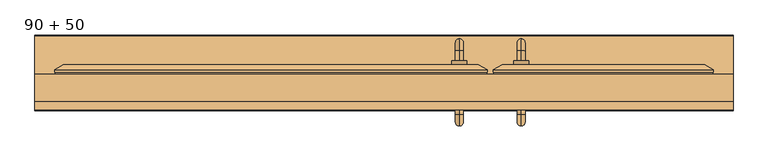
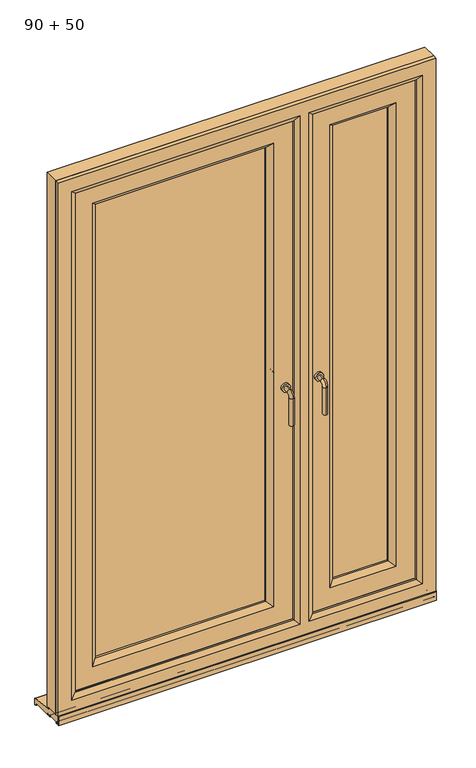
"""IFC4 building model written with IfcOpenShell, lengths in millimetres: door geometry, Door_Matrix 70_Double_Veka_Double Glazing_Outward Opening_Frame 67mm : 90 + 50."""

from ifc_helpers import new_model, si_unit, point, frame, frame_2d, origin, place, context, project, spatial, polyline, circle_curve, ellipse_curve, trimmed, segment, composite_curve, outline, extrude, faceted_brep, source, transform, mapped, element, save
from ifc_brep_helpers import plane_surface, cylinder_surface, revolved_surface, advanced_brep


def door_90_50_461a16cf(model_context):
    return source(origin(), model_context, "Body", "SolidModel", [
        advanced_brep(
        [(271.0137838, 321.299346, 992.0), (271.0137838, 321.299346, 1008.0), (271.0137838, 341.299346, 992.0), (271.0137838, 341.299346, 1008.0), (271.0137838, 364.299346, 985.0), (271.0137838, 348.299346, 985.0), (271.0137838, 348.299346, 880.0), (271.0137838, 364.299346, 880.0)],
        [
            (0, 1, circle_curve(frame((271.0137838, 321.299346, 1000.0), z_axis=(0.0, -1.0, 0.0), x_axis=(0.0, 0.0, 1.0)), 8.0)),
            (1, 0, circle_curve(frame((271.0137838, 321.299346, 1000.0), z_axis=(0.0, -1.0, 0.0), x_axis=(0.0, 0.0, 1.0)), 8.0)),
            (0, 2),
            (2, 3, circle_curve(frame((271.0137838, 341.299346, 1000.0), z_axis=(0.0, -1.0, 0.0), x_axis=(0.0, 0.0, 1.0)), 8.0)),
            (3, 1),
            (3, 2, circle_curve(frame((271.0137838, 341.299346, 1000.0), z_axis=(0.0, -1.0, 0.0), x_axis=(0.0, 0.0, 1.0)), 8.0)),
            (4, 3, circle_curve(frame((271.0137838, 341.299346, 985.0), z_axis=(1.0, 0.0, 0.0), x_axis=(0.0, 0.0, 1.0)), 23.0)),
            (2, 5, circle_curve(frame((271.0137838, 341.299346, 985.0), z_axis=(-1.0, 0.0, 0.0), x_axis=(0.0, 0.0, 1.0)), 7.0)),
            (5, 4, circle_curve(frame((271.0137838, 356.299346, 985.0), z_axis=(0.0, 0.0, 1.0), x_axis=(0.0, 1.0, 0.0)), 8.0)),
            (4, 5, circle_curve(frame((271.0137838, 356.299346, 985.0), z_axis=(0.0, 0.0, 1.0), x_axis=(0.0, 1.0, 0.0)), 8.0)),
            (6, 7, circle_curve(frame((271.0137838, 356.299346, 880.0), z_axis=(0.0, 0.0, -1.0), x_axis=(0.0, 1.0, 0.0)), 8.0)),
            (7, 6, circle_curve(frame((271.0137838, 356.299346, 880.0), z_axis=(0.0, 0.0, -1.0), x_axis=(0.0, 1.0, 0.0)), 8.0)),
            (5, 6),
            (7, 4),
        ],
        [
            plane_surface(frame((271.0137838, 321.299346, 1000.0), z_axis=(0.0, -1.0, 0.0), x_axis=(1.0, 0.0, 0.0))),
            cylinder_surface(frame((271.0137838, 321.299346, 1000.0), z_axis=(0.0, -1.0, 0.0), x_axis=(0.0, 0.0, 1.0)), 8.0),
            revolved_surface(trimmed(ellipse_curve(frame((271.0137838, 341.299346, 1000.0), z_axis=(0.0, -1.0, 0.0), x_axis=(0.0, 0.0, 1.0)), 8.0, 8.0), [point((271.0137838, 341.299346, 992.0))], [point((271.0137838, 341.299346, 1008.0))], True, "CARTESIAN"), (271.0137838, 341.299346, 985.0), (-1.0, 0.0, 0.0)),
            revolved_surface(trimmed(ellipse_curve(frame((271.0137838, 341.299346, 1000.0), z_axis=(0.0, -1.0, 0.0), x_axis=(0.0, 0.0, 1.0)), 8.0, 8.0), [point((271.0137838, 341.299346, 1008.0))], [point((271.0137838, 341.299346, 992.0))], True, "CARTESIAN"), (271.0137838, 341.299346, 985.0), (-1.0, 0.0, 0.0)),
            plane_surface(frame((271.0137838, 356.299346, 880.0), z_axis=(0.0, 0.0, -1.0), x_axis=(1.0, 0.0, 0.0))),
            cylinder_surface(frame((271.0137838, 356.299346, 985.0), z_axis=(0.0, 0.0, 1.0), x_axis=(0.0, 1.0, 0.0)), 8.0),
        ],
        [
            (0, [[1, 2]]),
            (1, [[-1, 3, 4, 5]]),
            (1, [[-2, -5, 6, -3]]),
            (2, [[7, -4, 8, 9]]),
            (3, [[-8, -6, -7, 10]]),
            (4, [[11, 12]]),
            (5, [[-9, 13, -12, 14]]),
            (5, [[-10, -14, -11, -13]]),
        ],
    ),
        extrude(outline(composite_curve([segment(trimmed(circle_curve(frame_2d((1000.0, 271.0000189)), 15.0), [point((1000.0, 256.0000189))], [point((1000.0, 286.0000189))], False, "CARTESIAN"), True, "CONTINUOUS"), segment(trimmed(circle_curve(frame_2d((1000.0, 271.0000189)), 15.0), [point((1000.0, 286.0000189))], [point((1000.0, 256.0000189))], False, "CARTESIAN"), True, "CONTINUOUS")], self_intersect=False)), frame((0.0, 313.299346, 0.0), z_axis=(0.0, 1.0, 0.0), x_axis=(0.0, 0.0, 1.0)), (0.0, 0.0, 1.0), 8.0),
        advanced_brep(
        [(148.9862162, 321.299346, 992.0), (148.9862162, 321.299346, 1008.0), (148.9862162, 341.299346, 1008.0), (148.9862162, 341.299346, 992.0), (148.9862162, 364.299346, 985.0), (148.9862162, 348.299346, 985.0), (148.9862162, 348.299346, 880.0), (148.9862162, 364.299346, 880.0)],
        [
            (0, 1, circle_curve(frame((148.9862162, 321.299346, 1000.0), z_axis=(0.0, -1.0, 0.0), x_axis=(0.0, 0.0, 1.0)), 8.0)),
            (1, 0, circle_curve(frame((148.9862162, 321.299346, 1000.0), z_axis=(0.0, -1.0, 0.0), x_axis=(0.0, 0.0, 1.0)), 8.0)),
            (1, 2),
            (2, 3, circle_curve(frame((148.9862162, 341.299346, 1000.0), z_axis=(0.0, -1.0, 0.0), x_axis=(0.0, 0.0, 1.0)), 8.0)),
            (3, 0),
            (3, 2, circle_curve(frame((148.9862162, 341.299346, 1000.0), z_axis=(0.0, -1.0, 0.0), x_axis=(0.0, 0.0, 1.0)), 8.0)),
            (4, 5, circle_curve(frame((148.9862162, 356.299346, 985.0), z_axis=(0.0, 0.0, 1.0), x_axis=(0.0, 1.0, 0.0)), 8.0)),
            (5, 3, circle_curve(frame((148.9862162, 341.299346, 985.0), z_axis=(1.0, 0.0, 0.0), x_axis=(0.0, 0.0, 1.0)), 7.0)),
            (2, 4, circle_curve(frame((148.9862162, 341.299346, 985.0), z_axis=(-1.0, 0.0, 0.0), x_axis=(0.0, 0.0, 1.0)), 23.0)),
            (5, 4, circle_curve(frame((148.9862162, 356.299346, 985.0), z_axis=(0.0, 0.0, 1.0), x_axis=(0.0, 1.0, 0.0)), 8.0)),
            (6, 7, circle_curve(frame((148.9862162, 356.299346, 880.0), z_axis=(0.0, 0.0, -1.0), x_axis=(0.0, 1.0, 0.0)), 8.0)),
            (7, 6, circle_curve(frame((148.9862162, 356.299346, 880.0), z_axis=(0.0, 0.0, -1.0), x_axis=(0.0, 1.0, 0.0)), 8.0)),
            (4, 7),
            (6, 5),
        ],
        [
            plane_surface(frame((148.9862162, 321.299346, 1000.0), z_axis=(0.0, -1.0, 0.0), x_axis=(-1.0, 0.0, 0.0))),
            cylinder_surface(frame((148.9862162, 321.299346, 1000.0), z_axis=(0.0, -1.0, 0.0), x_axis=(0.0, 0.0, 1.0)), 8.0),
            revolved_surface(trimmed(ellipse_curve(frame((148.9862162, 341.299346, 1000.0), z_axis=(0.0, 1.0, 0.0), x_axis=(0.0, 0.0, 1.0)), 8.0, 8.0), [point((148.9862162, 341.299346, 992.0))], [point((148.9862162, 341.299346, 1008.0))], True, "CARTESIAN"), (148.9862162, 341.299346, 985.0), (1.0, 0.0, 0.0)),
            revolved_surface(trimmed(ellipse_curve(frame((148.9862162, 341.299346, 1000.0), z_axis=(0.0, 1.0, 0.0), x_axis=(0.0, 0.0, 1.0)), 8.0, 8.0), [point((148.9862162, 341.299346, 1008.0))], [point((148.9862162, 341.299346, 992.0))], True, "CARTESIAN"), (148.9862162, 341.299346, 985.0), (1.0, 0.0, 0.0)),
            plane_surface(frame((148.9862162, 356.299346, 880.0), z_axis=(0.0, 0.0, -1.0), x_axis=(-1.0, 0.0, 0.0))),
            cylinder_surface(frame((148.9862162, 356.299346, 985.0), z_axis=(0.0, 0.0, 1.0), x_axis=(0.0, 1.0, 0.0)), 8.0),
        ],
        [
            (0, [[1, 2]]),
            (1, [[3, 4, 5, -2]]),
            (1, [[-5, 6, -3, -1]]),
            (2, [[7, 8, -4, 9]]),
            (3, [[10, -9, -6, -8]]),
            (4, [[11, 12]]),
            (5, [[13, -11, 14, -7]]),
            (5, [[-14, -12, -13, -10]]),
        ],
    ),
        extrude(outline(composite_curve([segment(trimmed(circle_curve(frame_2d((1000.0, 148.9999811)), 15.0), [point((1000.0, 163.9999811))], [point((1000.0, 133.9999811))], False, "CARTESIAN"), True, "CONTINUOUS"), segment(trimmed(circle_curve(frame_2d((1000.0, 148.9999811)), 15.0), [point((1000.0, 133.9999811))], [point((1000.0, 163.9999811))], False, "CARTESIAN"), True, "CONTINUOUS")], self_intersect=False)), frame((0.0, 313.299346, 0.0), z_axis=(0.0, 1.0, 0.0), x_axis=(0.0, 0.0, 1.0)), (0.0, 0.0, 1.0), 8.0),
        extrude(outline(composite_curve([segment(trimmed(circle_curve(frame_2d((223.1512093, 33.816203)), 1.1487907), [point((222.0024185, 33.816203))], [point((224.3, 33.816203))], False, "CARTESIAN"), True, "CONTINUOUS"), segment(polyline([(224.3, 33.816203), (224.3, 0.0), (222.0024185, 0.0), (222.0024185, 33.816203)]), True, "CONTINUOUS")], self_intersect=False)), frame((-690.0, 0.0, 0.0), z_axis=(1.0, 0.0, 0.0), x_axis=(0.0, 1.0, 0.0)), (0.0, 0.0, 1.0), 1380.0),
        extrude(outline(composite_curve([segment(polyline([(224.3, 29.9684543), (285.4535091, 29.9684543)]), True, "CONTINUOUS"), segment(trimmed(circle_curve(frame_2d((285.4535091, 28.1882095)), 1.7802448), [point((285.4535091, 29.9684543))], [point((287.2337539, 28.1882095))], False, "CARTESIAN"), True, "CONTINUOUS"), segment(polyline([(287.2337539, 28.1882095), (287.2337539, 26.2762118)]), True, "CONTINUOUS"), segment(trimmed(circle_curve(frame_2d((288.8166581, 26.2762118)), 1.5829042), [point((287.2337539, 26.2762118))], [point((288.6511996, 24.701979))], True, "CARTESIAN"), True, "CONTINUOUS"), segment(polyline([(288.6511996, 24.701979), (369.7623156, 16.1768571)]), True, "CONTINUOUS"), segment(trimmed(circle_curve(frame_2d((369.5008157, 13.6888513)), 2.5017105), [point((369.7623156, 16.1768571))], [point((372.0025262, 13.6888513))], False, "CARTESIAN"), True, "CONTINUOUS"), segment(polyline([(372.0025262, 13.6888513), (372.0025262, -10.3901624)]), True, "CONTINUOUS"), segment(trimmed(circle_curve(frame_2d((371.2180242, -10.3901624)), 0.7845019), [point((372.0025262, -10.3901624))], [point((371.0699977, -11.1605723))], False, "CARTESIAN"), True, "CONTINUOUS"), segment(polyline([(371.0699977, -11.1605723), (367.2238902, -10.4215811)]), True, "CONTINUOUS"), segment(trimmed(circle_curve(frame_2d((367.4810103, -9.0833898)), 1.3626689), [point((367.2238902, -10.4215811))], [point((366.3174293, -9.7925766))], False, "CARTESIAN"), True, "CONTINUOUS"), segment(polyline([(366.3174293, -9.7925766), (360.3489876, 0.0), (289.3024682, 0.0), (287.8452654, 1.4572028)]), True, "CONTINUOUS"), segment(trimmed(circle_curve(frame_2d((288.3641335, 1.9760709)), 0.7337904), [point((287.8452654, 1.4572028))], [point((288.7735167, 2.5850485))], False, "CARTESIAN"), True, "CONTINUOUS"), segment(trimmed(circle_curve(frame_2d((289.052468, 3.0000022)), 0.5000004), [point((288.7735167, 2.5850485))], [point((289.5524684, 3.0000022))], True, "CARTESIAN"), True, "CONTINUOUS"), segment(polyline([(289.5524684, 3.0000022), (289.5524684, 6.7000049), (279.8524612, 6.7000049), (279.8524612, 3.1794688)]), True, "CONTINUOUS"), segment(trimmed(circle_curve(frame_2d((280.6249307, 3.1794688)), 0.7724695), [point((279.8524612, 3.1794688))], [point((280.8915102, 2.4544554))], True, "CARTESIAN"), True, "CONTINUOUS"), segment(trimmed(circle_curve(frame_2d((281.1045415, 1.8750769)), 0.617302), [point((280.8915102, 2.4544554))], [point((281.5410399, 1.4385785))], False, "CARTESIAN"), True, "CONTINUOUS"), segment(polyline([(281.5410399, 1.4385785), (280.5024617, 0.4000003), (277.2024592, 0.4000003), (276.163881, 1.4385785)]), True, "CONTINUOUS"), segment(trimmed(circle_curve(frame_2d((276.6003795, 1.8750769)), 0.617302), [point((276.163881, 1.4385785))], [point((276.8134107, 2.4544554))], False, "CARTESIAN"), True, "CONTINUOUS"), segment(trimmed(circle_curve(frame_2d((277.0799903, 3.1794688)), 0.7724695), [point((276.8134107, 2.4544554))], [point((277.8524597, 3.1794688))], True, "CARTESIAN"), True, "CONTINUOUS"), segment(polyline([(277.8524597, 3.1794688), (277.8524597, 4.6211108)]), True, "CONTINUOUS"), segment(trimmed(circle_curve(frame_2d((277.0735665, 4.6211108)), 0.7788932), [point((277.8524597, 4.6211108))], [point((277.0735665, 5.400004))], True, "CARTESIAN"), True, "CONTINUOUS"), segment(polyline([(277.0735665, 5.400004), (237.0132707, 5.400004)]), True, "CONTINUOUS"), segment(trimmed(circle_curve(frame_2d((237.0132707, 4.5391622)), 0.8608418), [point((237.0132707, 5.400004))], [point((236.1524289, 4.5391622))], True, "CARTESIAN"), True, "CONTINUOUS"), segment(polyline([(236.1524289, 4.5391622), (236.1524289, 3.0000022)]), True, "CONTINUOUS"), segment(trimmed(circle_curve(frame_2d((236.6524293, 3.0000022)), 0.5000004), [point((236.1524289, 3.0000022))], [point((236.899745, 2.5654504))], True, "CARTESIAN"), True, "CONTINUOUS"), segment(trimmed(circle_curve(frame_2d((237.2679893, 1.918418)), 0.7444829), [point((236.899745, 2.5654504))], [point((237.7944182, 1.3919891))], False, "CARTESIAN"), True, "CONTINUOUS"), segment(polyline([(237.7944182, 1.3919891), (236.4024291, 0.0), (233.9024273, 0.0), (232.4452245, 1.4572028)]), True, "CONTINUOUS"), segment(trimmed(circle_curve(frame_2d((232.9640926, 1.9760709)), 0.7337904), [point((232.4452245, 1.4572028))], [point((233.3734758, 2.5850485))], False, "CARTESIAN"), True, "CONTINUOUS"), segment(trimmed(circle_curve(frame_2d((233.6524271, 3.0000022)), 0.5000004), [point((233.3734758, 2.5850485))], [point((234.1524275, 3.0000022))], True, "CARTESIAN"), True, "CONTINUOUS"), segment(polyline([(234.1524275, 3.0000022), (234.1524275, 5.8233683)]), True, "CONTINUOUS"), segment(trimmed(circle_curve(frame_2d((233.2757908, 5.8233683)), 0.8766367), [point((234.1524275, 5.8233683))], [point((233.2757908, 6.7000049))], True, "CARTESIAN"), True, "CONTINUOUS"), segment(polyline([(233.2757908, 6.7000049), (224.3, 6.7000049), (224.3, 29.9684543)]), True, "CONTINUOUS")], self_intersect=False)), frame((-690.0, 0.0, 0.0), z_axis=(1.0, 0.0, 0.0), x_axis=(0.0, 1.0, 0.0)), (0.0, 0.0, 1.0), 1380.0),
        advanced_brep(
        [(271.0137838, 235.3000993, 992.0), (271.0137838, 235.3000993, 1008.0), (271.0137838, 215.3000993, 1008.0), (271.0137838, 215.3000993, 992.0), (271.0137838, 192.3000993, 985.0), (271.0137838, 208.3000993, 985.0), (271.0137838, 208.3000993, 880.0), (271.0137838, 192.3000993, 880.0)],
        [
            (0, 1, circle_curve(frame((271.0137838, 235.3000993, 1000.0), z_axis=(0.0, 1.0, 0.0), x_axis=(0.0, 0.0, 1.0)), 8.0)),
            (1, 0, circle_curve(frame((271.0137838, 235.3000993, 1000.0), z_axis=(0.0, 1.0, 0.0), x_axis=(0.0, 0.0, 1.0)), 8.0)),
            (1, 2),
            (2, 3, circle_curve(frame((271.0137838, 215.3000993, 1000.0), z_axis=(0.0, 1.0, 0.0), x_axis=(0.0, 0.0, 1.0)), 8.0)),
            (3, 0),
            (3, 2, circle_curve(frame((271.0137838, 215.3000993, 1000.0), z_axis=(0.0, 1.0, 0.0), x_axis=(0.0, 0.0, 1.0)), 8.0)),
            (4, 5, circle_curve(frame((271.0137838, 200.3000993, 985.0), z_axis=(0.0, 0.0, 1.0), x_axis=(0.0, -1.0, 0.0)), 8.0)),
            (5, 3, circle_curve(frame((271.0137838, 215.3000993, 985.0), z_axis=(-1.0, 0.0, 0.0), x_axis=(0.0, 0.0, 1.0)), 7.0)),
            (2, 4, circle_curve(frame((271.0137838, 215.3000993, 985.0), z_axis=(1.0, 0.0, 0.0), x_axis=(0.0, 0.0, 1.0)), 23.0)),
            (5, 4, circle_curve(frame((271.0137838, 200.3000993, 985.0), z_axis=(0.0, 0.0, 1.0), x_axis=(0.0, -1.0, 0.0)), 8.0)),
            (6, 7, circle_curve(frame((271.0137838, 200.3000993, 880.0), z_axis=(0.0, 0.0, -1.0), x_axis=(0.0, -1.0, 0.0)), 8.0)),
            (7, 6, circle_curve(frame((271.0137838, 200.3000993, 880.0), z_axis=(0.0, 0.0, -1.0), x_axis=(0.0, -1.0, 0.0)), 8.0)),
            (4, 7),
            (6, 5),
        ],
        [
            plane_surface(frame((271.0137838, 235.3000993, 1000.0), z_axis=(0.0, 1.0, 0.0), x_axis=(1.0, 0.0, 0.0))),
            cylinder_surface(frame((271.0137838, 235.3000993, 1000.0), z_axis=(0.0, 1.0, 0.0), x_axis=(0.0, 0.0, 1.0)), 8.0),
            revolved_surface(trimmed(ellipse_curve(frame((271.0137838, 215.3000993, 1000.0), z_axis=(0.0, -1.0, 0.0), x_axis=(0.0, 0.0, 1.0)), 8.0, 8.0), [point((271.0137838, 215.3000993, 992.0))], [point((271.0137838, 215.3000993, 1008.0))], True, "CARTESIAN"), (271.0137838, 215.3000993, 985.0), (-1.0, 0.0, 0.0)),
            revolved_surface(trimmed(ellipse_curve(frame((271.0137838, 215.3000993, 1000.0), z_axis=(0.0, -1.0, 0.0), x_axis=(0.0, 0.0, 1.0)), 8.0, 8.0), [point((271.0137838, 215.3000993, 1008.0))], [point((271.0137838, 215.3000993, 992.0))], True, "CARTESIAN"), (271.0137838, 215.3000993, 985.0), (-1.0, 0.0, 0.0)),
            plane_surface(frame((271.0137838, 200.3000993, 880.0), z_axis=(0.0, 0.0, -1.0), x_axis=(1.0, 0.0, 0.0))),
            cylinder_surface(frame((271.0137838, 200.3000993, 985.0), z_axis=(0.0, 0.0, 1.0), x_axis=(0.0, -1.0, 0.0)), 8.0),
        ],
        [
            (0, [[1, 2]]),
            (1, [[3, 4, 5, -2]]),
            (1, [[-5, 6, -3, -1]]),
            (2, [[7, 8, -4, 9]]),
            (3, [[10, -9, -6, -8]]),
            (4, [[11, 12]]),
            (5, [[13, -11, 14, -7]]),
            (5, [[-14, -12, -13, -10]]),
        ],
    ),
        extrude(outline(composite_curve([segment(trimmed(circle_curve(frame_2d((1000.0, 271.0000189)), 15.0), [point((1000.0, 256.0000189))], [point((1000.0, 286.0000189))], False, "CARTESIAN"), True, "CONTINUOUS"), segment(trimmed(circle_curve(frame_2d((1000.0, 271.0000189)), 15.0), [point((1000.0, 286.0000189))], [point((1000.0, 256.0000189))], False, "CARTESIAN"), True, "CONTINUOUS")], self_intersect=False)), frame((0.0, 235.3000993, 0.0), z_axis=(0.0, 1.0, 0.0), x_axis=(0.0, 0.0, 1.0)), (0.0, 0.0, 1.0), 8.0),
        advanced_brep(
        [(148.9862162, 235.3000993, 992.0), (148.9862162, 235.3000993, 1008.0), (148.9862162, 215.3000993, 992.0), (148.9862162, 215.3000993, 1008.0), (148.9862162, 192.3000993, 985.0), (148.9862162, 208.3000993, 985.0), (148.9862162, 208.3000993, 880.0), (148.9862162, 192.3000993, 880.0)],
        [
            (0, 1, circle_curve(frame((148.9862162, 235.3000993, 1000.0), z_axis=(0.0, 1.0, 0.0), x_axis=(0.0, 0.0, 1.0)), 8.0)),
            (1, 0, circle_curve(frame((148.9862162, 235.3000993, 1000.0), z_axis=(0.0, 1.0, 0.0), x_axis=(0.0, 0.0, 1.0)), 8.0)),
            (0, 2),
            (2, 3, circle_curve(frame((148.9862162, 215.3000993, 1000.0), z_axis=(0.0, 1.0, 0.0), x_axis=(0.0, 0.0, 1.0)), 8.0)),
            (3, 1),
            (3, 2, circle_curve(frame((148.9862162, 215.3000993, 1000.0), z_axis=(0.0, 1.0, 0.0), x_axis=(0.0, 0.0, 1.0)), 8.0)),
            (4, 3, circle_curve(frame((148.9862162, 215.3000993, 985.0), z_axis=(-1.0, 0.0, 0.0), x_axis=(0.0, 0.0, 1.0)), 23.0)),
            (2, 5, circle_curve(frame((148.9862162, 215.3000993, 985.0), z_axis=(1.0, 0.0, 0.0), x_axis=(0.0, 0.0, 1.0)), 7.0)),
            (5, 4, circle_curve(frame((148.9862162, 200.3000993, 985.0), z_axis=(0.0, 0.0, 1.0), x_axis=(0.0, -1.0, 0.0)), 8.0)),
            (4, 5, circle_curve(frame((148.9862162, 200.3000993, 985.0), z_axis=(0.0, 0.0, 1.0), x_axis=(0.0, -1.0, 0.0)), 8.0)),
            (6, 7, circle_curve(frame((148.9862162, 200.3000993, 880.0), z_axis=(0.0, 0.0, -1.0), x_axis=(0.0, -1.0, 0.0)), 8.0)),
            (7, 6, circle_curve(frame((148.9862162, 200.3000993, 880.0), z_axis=(0.0, 0.0, -1.0), x_axis=(0.0, -1.0, 0.0)), 8.0)),
            (5, 6),
            (7, 4),
        ],
        [
            plane_surface(frame((148.9862162, 235.3000993, 1000.0), z_axis=(0.0, 1.0, 0.0), x_axis=(-1.0, 0.0, 0.0))),
            cylinder_surface(frame((148.9862162, 235.3000993, 1000.0), z_axis=(0.0, 1.0, 0.0), x_axis=(0.0, 0.0, 1.0)), 8.0),
            revolved_surface(trimmed(ellipse_curve(frame((148.9862162, 215.3000993, 1000.0), z_axis=(0.0, 1.0, 0.0), x_axis=(0.0, 0.0, 1.0)), 8.0, 8.0), [point((148.9862162, 215.3000993, 992.0))], [point((148.9862162, 215.3000993, 1008.0))], True, "CARTESIAN"), (148.9862162, 215.3000993, 985.0), (1.0, 0.0, 0.0)),
            revolved_surface(trimmed(ellipse_curve(frame((148.9862162, 215.3000993, 1000.0), z_axis=(0.0, 1.0, 0.0), x_axis=(0.0, 0.0, 1.0)), 8.0, 8.0), [point((148.9862162, 215.3000993, 1008.0))], [point((148.9862162, 215.3000993, 992.0))], True, "CARTESIAN"), (148.9862162, 215.3000993, 985.0), (1.0, 0.0, 0.0)),
            plane_surface(frame((148.9862162, 200.3000993, 880.0), z_axis=(0.0, 0.0, -1.0), x_axis=(-1.0, 0.0, 0.0))),
            cylinder_surface(frame((148.9862162, 200.3000993, 985.0), z_axis=(0.0, 0.0, 1.0), x_axis=(0.0, -1.0, 0.0)), 8.0),
        ],
        [
            (0, [[1, 2]]),
            (1, [[-1, 3, 4, 5]]),
            (1, [[-2, -5, 6, -3]]),
            (2, [[7, -4, 8, 9]]),
            (3, [[-8, -6, -7, 10]]),
            (4, [[11, 12]]),
            (5, [[-9, 13, -12, 14]]),
            (5, [[-10, -14, -11, -13]]),
        ],
    ),
        extrude(outline(composite_curve([segment(trimmed(circle_curve(frame_2d((1000.0, 148.9999811)), 15.0), [point((1000.0, 163.9999811))], [point((1000.0, 133.9999811))], False, "CARTESIAN"), True, "CONTINUOUS"), segment(trimmed(circle_curve(frame_2d((1000.0, 148.9999811)), 15.0), [point((1000.0, 133.9999811))], [point((1000.0, 163.9999811))], False, "CARTESIAN"), True, "CONTINUOUS")], self_intersect=False)), frame((0.0, 235.3000993, 0.0), z_axis=(0.0, 1.0, 0.0), x_axis=(0.0, 0.0, 1.0)), (0.0, 0.0, 1.0), 8.0),
        faceted_brep([(183.9881749, 243.2991455, 2031.0118251), (183.9881749, 243.2991455, 89.0118251), (183.9881749, 258.8001213, 89.0118251), (183.9881749, 258.8001213, 2031.0118251), (-631.0118251, 243.2991455, 89.0118251), (-631.0118251, 258.8001213, 89.0118251), (-631.0118251, 243.2991455, 2031.0118251), (-631.0118251, 258.8001213, 2031.0118251), (108.9914124, 258.8001213, 164.0085876), (108.9914124, 258.8001213, 1956.0150626), (-556.0150626, 258.8001213, 1956.0150626), (-556.0150626, 258.8001213, 164.0085876), (108.9914124, 253.7759158, 164.0085876), (108.9914124, 253.7759158, 1956.0150626), (-556.0150626, 253.7759158, 164.0085876), (-556.0150626, 253.7759158, 1956.0150626), (106.4642035, 243.2991455, 1953.4878537), (106.4642035, 243.2991455, 166.5357965), (-553.4878537, 243.2991455, 166.5357965), (-553.4878537, 243.2991455, 1953.4878537), (88.965402, 257.9838124, 1935.9890521), (88.965402, 257.9838124, 184.034598), (88.965402, 266.3179487, 1935.9890521), (88.965402, 266.3179487, 184.034598), (96.4493794, 266.3179487, 176.5506206), (96.4493794, 266.3179487, 1943.4730296), (-535.9890521, 257.9838124, 184.034598), (-535.9890521, 266.3179487, 184.034598), (-543.4730296, 266.3179487, 176.5506206), (-535.9890521, 257.9838124, 1935.9890521), (-535.9890521, 266.3179487, 1935.9890521), (-543.4730296, 266.3179487, 1943.4730296)], [[[0, 1, 2, 3]], [[1, 4, 5, 2]], [[4, 6, 7, 5]], [[6, 0, 3, 7]], [[3, 2, 5, 7], [8, 9, 10, 11]], [[9, 8, 12, 13]], [[8, 11, 14, 12]], [[11, 10, 15, 14]], [[1, 0, 6, 4], [16, 17, 18, 19]], [[10, 9, 13, 15]], [[20, 21, 17, 16]], [[22, 23, 21, 20]], [[13, 12, 24, 25]], [[21, 26, 18, 17]], [[23, 27, 26, 21]], [[12, 14, 28, 24]], [[26, 29, 19, 18]], [[27, 30, 29, 26]], [[14, 15, 31, 28]], [[29, 20, 16, 19]], [[30, 22, 20, 29]], [[25, 24, 28, 31], [23, 22, 30, 27]], [[15, 13, 25, 31]]]),
        extrude(outline(polyline([(-550.9872592, 266.3254673), (-550.9872592, 294.3372512), (103.963609, 294.3372512), (103.963609, 266.3254673), (-550.9872592, 266.3254673)])), frame((0.0, 0.0, 169.0118251), z_axis=(0.0, 0.0, 1.0), x_axis=(1.0, 0.0, 0.0)), (0.0, 0.0, 1.0), 1782.0),
        extrude(outline(polyline([(174.7833621, 98.2166379), (1945.2402881, 98.2166379), (1945.2402881, -545.2402881), (174.7833621, -545.2402881), (174.7833621, 98.2166379)]), holes=[polyline([(1936.2235734, 89.1999232), (183.8000768, 89.1999232), (183.8000768, -536.2235734), (1936.2235734, -536.2235734), (1936.2235734, 89.1999232)])]), frame((0.0, 294.3100318, 0.0), z_axis=(0.0, 1.0, 0.0), x_axis=(0.0, 0.0, 1.0)), (0.0, 0.0, 1.0), 3.4991592),
        extrude(outline(polyline([(69.7530278, 203.2469722), (2050.2706224, 203.2469722), (2050.2706224, -650.2706224), (69.7530278, -650.2706224), (69.7530278, 203.2469722)]), holes=[polyline([(2041.2539077, 194.2302575), (78.7697425, 194.2302575), (78.7697425, -641.2539077), (2041.2539077, -641.2539077), (2041.2539077, 194.2302575)])]), frame((0.0, 294.3101868, 0.0), z_axis=(0.0, 1.0, 0.0), x_axis=(0.0, 0.0, 1.0)), (0.0, 0.0, 1.0), 3.4991592),
        extrude(outline(polyline([(87.2656421, 185.7343579), (2032.7580081, 185.7343579), (2032.7580081, -632.7580081), (87.2656421, -632.7580081), (87.2656421, 185.7343579)]), holes=[polyline([(2023.7412934, 176.7176432), (96.2823568, 176.7176432), (96.2823568, -623.7412934), (2023.7412934, -623.7412934), (2023.7412934, 176.7176432)])]), frame((0.0, 239.8140626, 0.0), z_axis=(0.0, 1.0, 0.0), x_axis=(0.0, 0.0, 1.0)), (0.0, 0.0, 1.0), 3.4991592),
        faceted_brep([(203.9898195, 303.1974346, 2051.0134697), (203.9898195, 303.1974346, 69.0101805), (186.4905951, 313.3007268, 86.5094049), (186.4905951, 313.3007268, 2033.5142453), (203.9898195, 297.8013505, 2051.0134697), (203.9898195, 297.8013505, 69.0101805), (183.9884985, 258.8001213, 2031.0121487), (183.9884985, 258.8001213, 89.0115015), (183.9884985, 297.8013505, 89.0115015), (183.9884985, 297.8013505, 2031.0121487), (-651.0134697, 303.1974346, 69.0101805), (-633.5142453, 313.3007268, 86.5094049), (-651.0134697, 297.8013505, 69.0101805), (-631.0121487, 258.8001213, 89.0115015), (-631.0121487, 297.8013505, 89.0115015), (-651.0134697, 303.1974346, 2051.0134697), (-633.5142453, 313.3007268, 2033.5142453), (-651.0134697, 297.8013505, 2051.0134697), (-631.0121487, 258.8001213, 2031.0121487), (-631.0121487, 297.8013505, 2031.0121487), (106.4422027, 313.3007268, 166.5577973), (106.4422027, 313.3007268, 1953.4658528), (-553.4658528, 313.3007268, 1953.4658528), (-553.4658528, 313.3007268, 166.5577973), (109.0017167, 297.8012564, 1956.0253669), (109.0017167, 297.8012564, 163.9982833), (109.0017167, 258.8001213, 163.9982833), (109.0017167, 258.8001213, 1956.0253669), (-556.0253669, 297.8012564, 163.9982833), (-556.0253669, 258.8001213, 163.9982833), (-556.0253669, 297.8012564, 1956.0253669), (-556.0253669, 258.8001213, 1956.0253669), (89.0003957, 303.2310558, 1936.0240459), (89.0003957, 303.2310558, 183.9996043), (89.0003957, 297.8012564, 183.9996043), (89.0003957, 297.8012564, 1936.0240459), (-536.0240459, 303.2310558, 183.9996043), (-536.0240459, 297.8012564, 183.9996043), (-536.0240459, 303.2310558, 1936.0240459), (-536.0240459, 297.8012564, 1936.0240459)], [[[0, 1, 2, 3]], [[4, 5, 1, 0]], [[6, 7, 8, 9]], [[1, 10, 11, 2]], [[5, 12, 10, 1]], [[7, 13, 14, 8]], [[10, 15, 16, 11]], [[12, 17, 15, 10]], [[13, 18, 19, 14]], [[15, 0, 3, 16]], [[17, 4, 0, 15]], [[5, 4, 17, 12], [9, 8, 14, 19]], [[18, 6, 9, 19]], [[3, 2, 11, 16], [20, 21, 22, 23]], [[24, 25, 26, 27]], [[25, 28, 29, 26]], [[28, 30, 31, 29]], [[7, 6, 18, 13], [27, 26, 29, 31]], [[30, 24, 27, 31]], [[32, 33, 34, 35]], [[33, 36, 37, 34]], [[36, 38, 39, 37]], [[38, 32, 35, 39]], [[21, 20, 33, 32]], [[20, 23, 36, 33]], [[23, 22, 38, 36]], [[25, 24, 30, 28], [35, 34, 37, 39]], [[22, 21, 32, 38]]]),
        faceted_brep([(631.0118251, 243.2991455, 2031.0118251), (631.0118251, 243.2991455, 89.0118251), (631.0118251, 258.8001213, 89.0118251), (631.0118251, 258.8001213, 2031.0118251), (236.0118251, 243.2991455, 89.0118251), (236.0118251, 258.8001213, 89.0118251), (236.0118251, 243.2991455, 2031.0118251), (236.0118251, 258.8001213, 2031.0118251), (556.0150626, 258.8001213, 164.0085876), (556.0150626, 258.8001213, 1956.0150626), (311.0085876, 258.8001213, 1956.0150626), (311.0085876, 258.8001213, 164.0085876), (556.0150626, 253.7759158, 164.0085876), (556.0150626, 253.7759158, 1956.0150626), (311.0085876, 253.7759158, 164.0085876), (311.0085876, 253.7759158, 1956.0150626), (553.4878537, 243.2991455, 1953.4878537), (553.4878537, 243.2991455, 166.5357965), (313.5357965, 243.2991455, 166.5357965), (313.5357965, 243.2991455, 1953.4878537), (535.9890521, 257.9838124, 1935.9890521), (535.9890521, 257.9838124, 184.034598), (535.9890521, 266.3179487, 1935.9890521), (535.9890521, 266.3179487, 184.034598), (543.4730296, 266.3179487, 176.5506206), (543.4730296, 266.3179487, 1943.4730296), (331.034598, 257.9838124, 184.034598), (331.034598, 266.3179487, 184.034598), (323.5506206, 266.3179487, 176.5506206), (331.034598, 257.9838124, 1935.9890521), (331.034598, 266.3179487, 1935.9890521), (323.5506206, 266.3179487, 1943.4730296)], [[[0, 1, 2, 3]], [[1, 4, 5, 2]], [[4, 6, 7, 5]], [[6, 0, 3, 7]], [[3, 2, 5, 7], [8, 9, 10, 11]], [[9, 8, 12, 13]], [[8, 11, 14, 12]], [[11, 10, 15, 14]], [[1, 0, 6, 4], [16, 17, 18, 19]], [[10, 9, 13, 15]], [[20, 21, 17, 16]], [[22, 23, 21, 20]], [[13, 12, 24, 25]], [[21, 26, 18, 17]], [[23, 27, 26, 21]], [[12, 14, 28, 24]], [[26, 29, 19, 18]], [[27, 30, 29, 26]], [[14, 15, 31, 28]], [[29, 20, 16, 19]], [[30, 22, 20, 29]], [[25, 24, 28, 31], [23, 22, 30, 27]], [[15, 13, 25, 31]]]),
        extrude(outline(polyline([(316.036391, 266.3254673), (316.036391, 294.3372512), (550.9872592, 294.3372512), (550.9872592, 266.3254673), (316.036391, 266.3254673)])), frame((0.0, 0.0, 169.0118251), z_axis=(0.0, 0.0, 1.0), x_axis=(1.0, 0.0, 0.0)), (0.0, 0.0, 1.0), 1782.0),
        extrude(outline(polyline([(174.7833621, 545.2402881), (1945.2402881, 545.2402881), (1945.2402881, 321.7833621), (174.7833621, 321.7833621), (174.7833621, 545.2402881)]), holes=[polyline([(1936.2235734, 536.2235734), (183.8000768, 536.2235734), (183.8000768, 330.8000768), (1936.2235734, 330.8000768), (1936.2235734, 536.2235734)])]), frame((0.0, 294.3100318, 0.0), z_axis=(0.0, 1.0, 0.0), x_axis=(0.0, 0.0, 1.0)), (0.0, 0.0, 1.0), 3.4991592),
        extrude(outline(polyline([(69.7530278, 650.2706224), (2050.2706224, 650.2706224), (2050.2706224, 216.7530278), (69.7530278, 216.7530278), (69.7530278, 650.2706224)]), holes=[polyline([(2041.2539077, 641.2539077), (78.7697425, 641.2539077), (78.7697425, 225.7697425), (2041.2539077, 225.7697425), (2041.2539077, 641.2539077)])]), frame((0.0, 294.3101868, 0.0), z_axis=(0.0, 1.0, 0.0), x_axis=(0.0, 0.0, 1.0)), (0.0, 0.0, 1.0), 3.4991592),
        extrude(outline(polyline([(87.2656421, 632.7580081), (2032.7580081, 632.7580081), (2032.7580081, 234.2656421), (87.2656421, 234.2656421), (87.2656421, 632.7580081)]), holes=[polyline([(2023.7412934, 623.7412934), (96.2823568, 623.7412934), (96.2823568, 243.2823568), (2023.7412934, 243.2823568), (2023.7412934, 623.7412934)])]), frame((0.0, 239.8140626, 0.0), z_axis=(0.0, 1.0, 0.0), x_axis=(0.0, 0.0, 1.0)), (0.0, 0.0, 1.0), 3.4991592),
        faceted_brep([(651.0134697, 303.1974346, 2051.0134697), (651.0134697, 303.1974346, 69.0101805), (633.5142453, 313.3007268, 86.5094049), (633.5142453, 313.3007268, 2033.5142453), (651.0134697, 297.8013505, 2051.0134697), (651.0134697, 297.8013505, 69.0101805), (631.0121487, 258.8001213, 2031.0121487), (631.0121487, 258.8001213, 89.0115015), (631.0121487, 297.8013505, 89.0115015), (631.0121487, 297.8013505, 2031.0121487), (216.0101805, 303.1974346, 69.0101805), (233.5094049, 313.3007268, 86.5094049), (216.0101805, 297.8013505, 69.0101805), (236.0115015, 258.8001213, 89.0115015), (236.0115015, 297.8013505, 89.0115015), (216.0101805, 303.1974346, 2051.0134697), (233.5094049, 313.3007268, 2033.5142453), (216.0101805, 297.8013505, 2051.0134697), (236.0115015, 258.8001213, 2031.0121487), (236.0115015, 297.8013505, 2031.0121487), (553.4658528, 313.3007268, 166.5577973), (553.4658528, 313.3007268, 1953.4658528), (313.5577973, 313.3007268, 1953.4658528), (313.5577973, 313.3007268, 166.5577973), (556.0253669, 297.8012564, 1956.0253669), (556.0253669, 297.8012564, 163.9982833), (556.0253669, 258.8001213, 163.9982833), (556.0253669, 258.8001213, 1956.0253669), (310.9982833, 297.8012564, 163.9982833), (310.9982833, 258.8001213, 163.9982833), (310.9982833, 297.8012564, 1956.0253669), (310.9982833, 258.8001213, 1956.0253669), (536.0240459, 303.2310558, 1936.0240459), (536.0240459, 303.2310558, 183.9996043), (536.0240459, 297.8012564, 183.9996043), (536.0240459, 297.8012564, 1936.0240459), (330.9996043, 303.2310558, 183.9996043), (330.9996043, 297.8012564, 183.9996043), (330.9996043, 303.2310558, 1936.0240459), (330.9996043, 297.8012564, 1936.0240459)], [[[0, 1, 2, 3]], [[4, 5, 1, 0]], [[6, 7, 8, 9]], [[1, 10, 11, 2]], [[5, 12, 10, 1]], [[7, 13, 14, 8]], [[10, 15, 16, 11]], [[12, 17, 15, 10]], [[13, 18, 19, 14]], [[15, 0, 3, 16]], [[17, 4, 0, 15]], [[5, 4, 17, 12], [9, 8, 14, 19]], [[18, 6, 9, 19]], [[3, 2, 11, 16], [20, 21, 22, 23]], [[24, 25, 26, 27]], [[25, 28, 29, 26]], [[28, 30, 31, 29]], [[7, 6, 18, 13], [27, 26, 29, 31]], [[30, 24, 27, 31]], [[32, 33, 34, 35]], [[33, 36, 37, 34]], [[36, 38, 39, 37]], [[38, 32, 35, 39]], [[21, 20, 33, 32]], [[20, 23, 36, 33]], [[23, 22, 38, 36]], [[25, 24, 30, 28], [35, 34, 37, 39]], [[22, 21, 32, 38]]]),
        faceted_brep([(220.9983546, 239.7970422, 2084.9624465), (220.9983546, 243.06822, 2084.9624465), (198.9992513, 243.06822, 2084.9624465), (198.9992513, 239.7970422, 2084.9624465), (198.9992513, 239.7970422, 35.0), (198.9992513, 243.06822, 35.0), (220.9983546, 243.06822, 35.0), (220.9983546, 239.7970422, 35.0), (690.0, 224.2980769, 30.0), (690.0, 224.2980769, 2090.0), (-690.0, 224.2980769, 2090.0), (-690.0, 224.2980769, 30.0), (193.4999653, 224.2980769, 2040.6351244), (193.4999653, 224.2980769, 79.3648756), (-640.6340004, 224.2980769, 79.3659996), (-640.6340004, 224.2980769, 2040.6340004), (226.4976406, 224.2980769, 79.3648756), (226.4976406, 224.2980769, 2040.6351244), (640.6340004, 224.2980769, 2040.6340004), (640.6340004, 224.2980769, 79.3659996), (243.9982232, 234.4011467, 96.9998025), (243.998078, 234.4010629, 2023.0000053), (243.998078, 239.7970422, 96.9999947), (243.998078, 239.7970422, 2023.0000053), (690.0, 239.7970422, 2090.0), (690.0, 239.7970422, 30.0), (-690.0, 239.7970422, 30.0), (-690.0, 239.7970422, 2090.0), (623.0000053, 239.7970422, 96.9999947), (623.0000053, 239.7970422, 2023.0000053), (-623.0000053, 239.7970422, 96.9999947), (175.9995279, 239.7970422, 96.9999947), (175.9995279, 239.7970422, 2023.0000053), (-623.0000053, 239.7970422, 2023.0000053), (175.9995279, 234.4010629, 96.9999947), (175.9995279, 234.4010629, 2023.0000053), (623.0000053, 234.4012568, 2023.0000053), (623.0000053, 234.4012568, 96.9999947), (-623.0000053, 234.4012568, 96.9999947), (-623.0000053, 234.4012568, 2023.0000053)], [[[0, 1, 2, 3]], [[4, 5, 6, 7]], [[8, 9, 10, 11], [12, 13, 14, 15], [16, 17, 18, 19]], [[17, 16, 20, 21]], [[21, 20, 22, 23]], [[24, 25, 26, 27], [0, 3, 4, 7], [23, 22, 28, 29], [30, 31, 32, 33]], [[1, 0, 7, 6]], [[2, 1, 6, 5]], [[4, 3, 2, 5]], [[32, 31, 34, 35]], [[13, 12, 35, 34]], [[36, 29, 28, 37]], [[36, 37, 19, 18]], [[24, 9, 8, 25]], [[37, 28, 22, 20]], [[30, 38, 34, 31]], [[19, 37, 20, 16]], [[38, 14, 13, 34]], [[25, 8, 11, 26]], [[38, 30, 33, 39]], [[14, 38, 39, 15]], [[26, 11, 10, 27]], [[29, 36, 21, 23]], [[39, 33, 32, 35]], [[36, 18, 17, 21]], [[15, 39, 35, 12]], [[9, 24, 27, 10]]]),
        faceted_brep([(690.0, 294.2961568, 2090.0), (690.0, 294.2961568, 30.0), (-690.0, 294.2961568, 30.0), (-690.0, 294.2961568, 2090.0), (222.5812807, 294.2961568, 2042.9916188), (222.5812807, 294.2961568, 77.0083812), (642.9916188, 294.2961568, 77.0083812), (642.9916188, 294.2961568, 2042.9916188), (197.5561971, 294.2961568, 77.0083812), (197.5561971, 294.2961568, 2042.9916188), (-642.9916188, 294.2961568, 2042.9916188), (-642.9916188, 294.2961568, 77.0083812), (197.5561971, 243.0667351, 77.0083812), (197.5561971, 243.0667351, 2042.9916188), (222.5812807, 243.0667351, 77.0083812), (222.5812807, 243.0667351, 2042.9916188), (642.9916188, 239.8328407, 2042.9916188), (642.9916188, 239.8328407, 77.0083812), (690.0, 239.8328407, 2090.0), (690.0, 239.8328407, 30.0), (-642.9916188, 239.8328407, 77.0083812), (-690.0, 239.8328407, 30.0), (-642.9916188, 239.8328407, 2042.9916188), (-690.0, 239.8328407, 2090.0)], [[[0, 1, 2, 3], [4, 5, 6, 7], [8, 9, 10, 11]], [[9, 8, 12, 13]], [[13, 12, 14, 15]], [[5, 4, 15, 14]], [[16, 7, 6, 17]], [[0, 18, 19, 1]], [[17, 6, 5, 14, 12, 8, 11, 20]], [[1, 19, 21, 2]], [[20, 11, 10, 22]], [[2, 21, 23, 3]], [[7, 16, 22, 10, 9, 13, 15, 4]], [[19, 18, 23, 21], [16, 17, 20, 22]], [[18, 0, 3, 23]]]),
    ])


if __name__ == "__main__":
    model = new_model("IFC4")
    model_context = context("Model", 3, world=origin())
    ifc_project = project(units=[si_unit("LENGTHUNIT", "METRE", prefix="MILLI")], contexts=[model_context])
    site = spatial("IfcSite", under=ifc_project)
    building = spatial("IfcBuilding", under=site)
    placement = place(None, origin())
    door_90_50_shape = door_90_50_461a16cf(model_context)
    element("IfcDoor", 1, ObjectType="Door_Matrix 70_Double_Veka_Double Glazing_Outward Opening_Frame 67mm : 90 + 50", at=placement, inside=building, context=model_context, shape_type="MappedRepresentation", body=[
        mapped(door_90_50_shape, transform((0.0, 0.0, 0.0), x_axis=(1.0, 0.0, 0.0), y_axis=(0.0, 1.0, 0.0), z_axis=(0.0, 0.0, 1.0))),
    ])
    save(model, "model.ifc")
